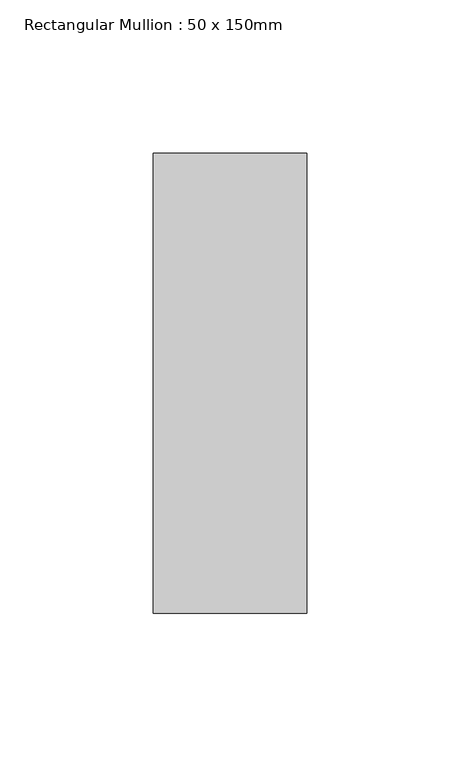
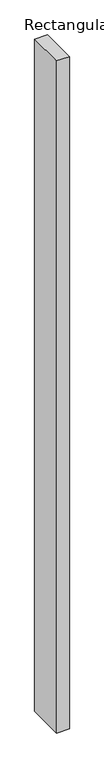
"""IFC4 building model written with IfcOpenShell, lengths in millimetres: member geometry, Rectangular Mullion : 50 x 150mm."""

from ifc_helpers import new_model, si_unit, frame, origin, place, context, project, spatial, polyline, outline, extrude, source, transform, mapped, element, save


def rectangular_mullion_50_x_150mm_53ab1cb9(model_context):
    return source(origin(), model_context, "Body", "SweptSolid", [
        extrude(outline(polyline([(0.0, 75.0), (0.0, -75.0), (-50.0, -75.0), (-50.0, 75.0), (0.0, 75.0)])), frame((0.0, 0.0, -2799.9999998), z_axis=(0.0, 0.0, 1.0), x_axis=(1.0, 0.0, 0.0)), (0.0, 0.0, 1.0), 2799.9999998),
    ])


if __name__ == "__main__":
    model = new_model("IFC4")
    model_context = context("Model", 3, world=origin())
    ifc_project = project(units=[si_unit("LENGTHUNIT", "METRE", prefix="MILLI")], contexts=[model_context])
    site = spatial("IfcSite", under=ifc_project)
    building = spatial("IfcBuilding", under=site)
    placement = place(None, origin())
    rectangular_mullion_50_x_150mm_shape = rectangular_mullion_50_x_150mm_53ab1cb9(model_context)
    element("IfcMember", 1, ObjectType="Rectangular Mullion : 50 x 150mm", at=placement, inside=building, context=model_context, shape_type="MappedRepresentation", body=[
        mapped(rectangular_mullion_50_x_150mm_shape, transform((0.0, 0.0, 0.0), x_axis=(1.0, 0.0, 0.0), y_axis=(0.0, 1.0, 0.0), z_axis=(0.0, 0.0, 1.0))),
    ])
    save(model, "model.ifc")
